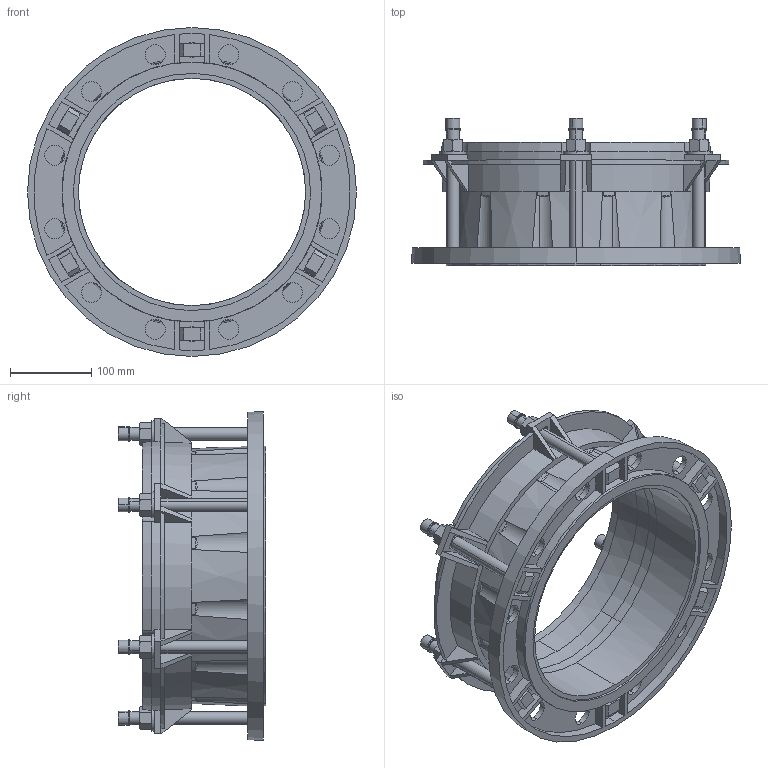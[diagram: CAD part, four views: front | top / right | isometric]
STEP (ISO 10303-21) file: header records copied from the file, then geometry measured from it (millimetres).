
FILE_DESCRIPTION (( 'STEP AP203' ), '1' );
FILE_NAME ('O_623_10_DN250-280mm_X0XXXXX_REV01.step', '2020-04-17T09:19:39', ( '' ), ( '' ), 'SwSTEP 2.0', 'SolidWorks 2019', '' );
FILE_SCHEMA (( 'CONFIG_CONTROL_DESIGN' ));
Length unit declared in the file: millimetre
Products named in the file (1): O_623_10_DN250-280mm_X0XXXXX_REV01
Bounding box: 405 x 181.5 x 405 mm (x, y, z)
Volume: 3807951.4 mm3; surface area: 605653.7 mm2
Topology: 1 solids, 1 shells, 667 faces, 1720 edges, 1082 vertices
Faces by surface type: plane 310, cylinder 233, cone 124
Entity records: 21356 total; most frequent: CARTESIAN_POINT 4905, DIRECTION 3442, ORIENTED_EDGE 3440, EDGE_CURVE 1720, AXIS2_PLACEMENT_3D 1310, VERTEX_POINT 1082, LINE 822, VECTOR 822
